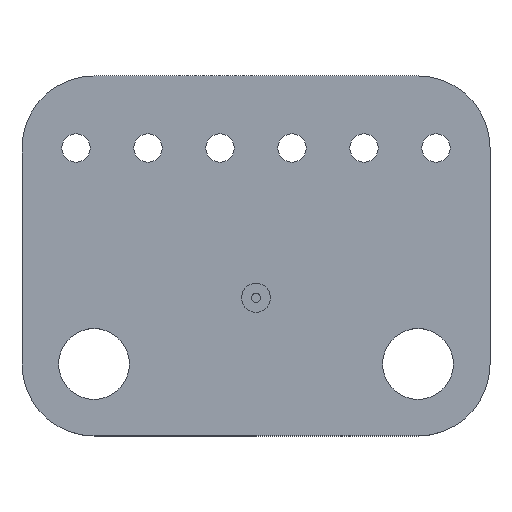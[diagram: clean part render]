
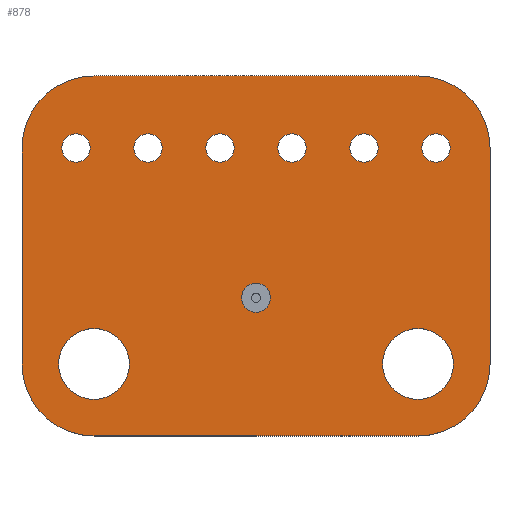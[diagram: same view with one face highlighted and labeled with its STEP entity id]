
A CAD part, top view. The second image highlights one B-rep face of the part: STEP entity #878.
In plain terms, the highlighted planar face has unit normal (0, 0, 1).
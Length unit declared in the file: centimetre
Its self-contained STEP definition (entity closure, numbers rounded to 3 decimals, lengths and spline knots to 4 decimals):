
#59=FACE_BOUND('',#177,.T.);
#60=FACE_BOUND('',#178,.T.);
#61=FACE_BOUND('',#179,.T.);
#62=FACE_BOUND('',#180,.T.);
#63=FACE_BOUND('',#181,.T.);
#64=FACE_BOUND('',#182,.T.);
#65=FACE_BOUND('',#183,.T.);
#66=FACE_BOUND('',#184,.T.);
#67=FACE_BOUND('',#185,.T.);
#78=PLANE('',#1024);
#125=FACE_OUTER_BOUND('',#176,.T.);
#176=EDGE_LOOP('',(#666,#667,#668,#669,#670,#671,#672,#673));
#177=EDGE_LOOP('',(#674));
#178=EDGE_LOOP('',(#675));
#179=EDGE_LOOP('',(#676));
#180=EDGE_LOOP('',(#677));
#181=EDGE_LOOP('',(#678));
#182=EDGE_LOOP('',(#679));
#183=EDGE_LOOP('',(#680));
#184=EDGE_LOOP('',(#681));
#185=EDGE_LOOP('',(#682));
#247=LINE('',#1421,#333);
#248=LINE('',#1425,#334);
#249=LINE('',#1429,#335);
#250=LINE('',#1432,#336);
#333=VECTOR('',#1161,0.1);
#334=VECTOR('',#1164,0.1);
#335=VECTOR('',#1167,0.1);
#336=VECTOR('',#1170,0.1);
#409=CIRCLE('',#996,0.05);
#411=CIRCLE('',#999,0.05);
#413=CIRCLE('',#1002,0.05);
#415=CIRCLE('',#1005,0.05);
#417=CIRCLE('',#1008,0.05);
#419=CIRCLE('',#1011,0.05);
#421=CIRCLE('',#1014,0.125);
#423=CIRCLE('',#1017,0.125);
#425=CIRCLE('',#1020,0.0513);
#427=CIRCLE('',#1023,0.254);
#428=CIRCLE('',#1025,0.254);
#429=CIRCLE('',#1026,0.254);
#430=CIRCLE('',#1027,0.254);
#437=VERTEX_POINT('',#1359);
#439=VERTEX_POINT('',#1365);
#441=VERTEX_POINT('',#1371);
#443=VERTEX_POINT('',#1377);
#445=VERTEX_POINT('',#1383);
#447=VERTEX_POINT('',#1389);
#449=VERTEX_POINT('',#1395);
#451=VERTEX_POINT('',#1401);
#453=VERTEX_POINT('',#1407);
#454=VERTEX_POINT('',#1411);
#457=VERTEX_POINT('',#1416);
#458=VERTEX_POINT('',#1420);
#459=VERTEX_POINT('',#1422);
#460=VERTEX_POINT('',#1424);
#461=VERTEX_POINT('',#1426);
#462=VERTEX_POINT('',#1428);
#463=VERTEX_POINT('',#1430);
#514=EDGE_CURVE('',#437,#437,#409,.T.);
#517=EDGE_CURVE('',#439,#439,#411,.T.);
#520=EDGE_CURVE('',#441,#441,#413,.T.);
#523=EDGE_CURVE('',#443,#443,#415,.T.);
#526=EDGE_CURVE('',#445,#445,#417,.T.);
#529=EDGE_CURVE('',#447,#447,#419,.T.);
#532=EDGE_CURVE('',#449,#449,#421,.T.);
#535=EDGE_CURVE('',#451,#451,#423,.T.);
#538=EDGE_CURVE('',#453,#453,#425,.T.);
#542=EDGE_CURVE('',#454,#457,#427,.T.);
#543=EDGE_CURVE('',#457,#458,#247,.T.);
#544=EDGE_CURVE('',#458,#459,#428,.T.);
#545=EDGE_CURVE('',#459,#460,#248,.T.);
#546=EDGE_CURVE('',#460,#461,#429,.T.);
#547=EDGE_CURVE('',#461,#462,#249,.T.);
#548=EDGE_CURVE('',#462,#463,#430,.T.);
#549=EDGE_CURVE('',#463,#454,#250,.T.);
#666=ORIENTED_EDGE('',*,*,#543,.T.);
#667=ORIENTED_EDGE('',*,*,#544,.T.);
#668=ORIENTED_EDGE('',*,*,#545,.T.);
#669=ORIENTED_EDGE('',*,*,#546,.T.);
#670=ORIENTED_EDGE('',*,*,#547,.T.);
#671=ORIENTED_EDGE('',*,*,#548,.T.);
#672=ORIENTED_EDGE('',*,*,#549,.T.);
#673=ORIENTED_EDGE('',*,*,#542,.T.);
#674=ORIENTED_EDGE('',*,*,#517,.T.);
#675=ORIENTED_EDGE('',*,*,#520,.T.);
#676=ORIENTED_EDGE('',*,*,#523,.T.);
#677=ORIENTED_EDGE('',*,*,#526,.T.);
#678=ORIENTED_EDGE('',*,*,#529,.T.);
#679=ORIENTED_EDGE('',*,*,#532,.T.);
#680=ORIENTED_EDGE('',*,*,#535,.T.);
#681=ORIENTED_EDGE('',*,*,#538,.T.);
#682=ORIENTED_EDGE('',*,*,#514,.T.);
#878=ADVANCED_FACE('',(#125,#59,#60,#61,#62,#63,#64,#65,#66,#67),#78,.T.);
#996=AXIS2_PLACEMENT_3D('',#1361,#1093,#1094);
#999=AXIS2_PLACEMENT_3D('',#1367,#1100,#1101);
#1002=AXIS2_PLACEMENT_3D('',#1373,#1107,#1108);
#1005=AXIS2_PLACEMENT_3D('',#1379,#1114,#1115);
#1008=AXIS2_PLACEMENT_3D('',#1385,#1121,#1122);
#1011=AXIS2_PLACEMENT_3D('',#1391,#1128,#1129);
#1014=AXIS2_PLACEMENT_3D('',#1397,#1135,#1136);
#1017=AXIS2_PLACEMENT_3D('',#1403,#1142,#1143);
#1020=AXIS2_PLACEMENT_3D('',#1409,#1149,#1150);
#1023=AXIS2_PLACEMENT_3D('',#1418,#1157,#1158);
#1024=AXIS2_PLACEMENT_3D('',#1419,#1159,#1160);
#1025=AXIS2_PLACEMENT_3D('',#1423,#1162,#1163);
#1026=AXIS2_PLACEMENT_3D('',#1427,#1165,#1166);
#1027=AXIS2_PLACEMENT_3D('',#1431,#1168,#1169);
#1093=DIRECTION('center_axis',(0.,0.,-1.));
#1094=DIRECTION('ref_axis',(1.,0.,0.));
#1100=DIRECTION('center_axis',(0.,0.,-1.));
#1101=DIRECTION('ref_axis',(1.,0.,0.));
#1107=DIRECTION('center_axis',(0.,0.,-1.));
#1108=DIRECTION('ref_axis',(1.,0.,0.));
#1114=DIRECTION('center_axis',(0.,0.,-1.));
#1115=DIRECTION('ref_axis',(1.,0.,0.));
#1121=DIRECTION('center_axis',(0.,0.,-1.));
#1122=DIRECTION('ref_axis',(1.,0.,0.));
#1128=DIRECTION('center_axis',(0.,0.,-1.));
#1129=DIRECTION('ref_axis',(1.,0.,0.));
#1135=DIRECTION('center_axis',(0.,0.,-1.));
#1136=DIRECTION('ref_axis',(1.,0.,0.));
#1142=DIRECTION('center_axis',(0.,0.,-1.));
#1143=DIRECTION('ref_axis',(1.,0.,0.));
#1149=DIRECTION('center_axis',(0.,0.,-1.));
#1150=DIRECTION('ref_axis',(1.,0.,0.));
#1157=DIRECTION('center_axis',(0.,0.,1.));
#1158=DIRECTION('ref_axis',(1.,0.,0.));
#1159=DIRECTION('center_axis',(0.,0.,1.));
#1160=DIRECTION('ref_axis',(1.,0.,0.));
#1161=DIRECTION('',(-1.,0.,0.));
#1162=DIRECTION('center_axis',(0.,0.,1.));
#1163=DIRECTION('ref_axis',(1.,0.,0.));
#1164=DIRECTION('',(0.,-1.,0.));
#1165=DIRECTION('center_axis',(0.,0.,1.));
#1166=DIRECTION('ref_axis',(1.,0.,0.));
#1167=DIRECTION('',(1.,0.,0.));
#1168=DIRECTION('center_axis',(0.,0.,1.));
#1169=DIRECTION('ref_axis',(1.,0.,0.));
#1170=DIRECTION('',(0.,1.,0.));
#1359=CARTESIAN_POINT('',(0.585,-0.9428,-0.405));
#1361=CARTESIAN_POINT('Origin',(0.635,-0.9428,-0.405));
#1365=CARTESIAN_POINT('',(0.331,-0.9428,-0.405));
#1367=CARTESIAN_POINT('Origin',(0.381,-0.9428,-0.405));
#1371=CARTESIAN_POINT('',(0.077,-0.9428,-0.405));
#1373=CARTESIAN_POINT('Origin',(0.127,-0.9428,-0.405));
#1377=CARTESIAN_POINT('',(-0.177,-0.9428,-0.405));
#1379=CARTESIAN_POINT('Origin',(-0.127,-0.9428,-0.405));
#1383=CARTESIAN_POINT('',(-0.431,-0.9428,-0.405));
#1385=CARTESIAN_POINT('Origin',(-0.381,-0.9428,-0.405));
#1389=CARTESIAN_POINT('',(-0.685,-0.9428,-0.405));
#1391=CARTESIAN_POINT('Origin',(-0.635,-0.9428,-0.405));
#1395=CARTESIAN_POINT('',(0.4465,-1.7048,-0.405));
#1397=CARTESIAN_POINT('Origin',(0.5715,-1.7048,-0.405));
#1401=CARTESIAN_POINT('',(-0.6965,-1.7048,-0.405));
#1403=CARTESIAN_POINT('Origin',(-0.5715,-1.7048,-0.405));
#1407=CARTESIAN_POINT('',(-0.0513,-1.471,-0.405));
#1409=CARTESIAN_POINT('Origin',(0.,-1.471,-0.405));
#1411=CARTESIAN_POINT('',(0.8255,-0.9428,-0.405));
#1416=CARTESIAN_POINT('',(0.5715,-0.6888,-0.405));
#1418=CARTESIAN_POINT('Origin',(0.5715,-0.9428,-0.405));
#1419=CARTESIAN_POINT('Origin',(0.,-1.3238,-0.405));
#1420=CARTESIAN_POINT('',(-0.5715,-0.6888,-0.405));
#1421=CARTESIAN_POINT('',(0.,-0.6888,-0.405));
#1422=CARTESIAN_POINT('',(-0.8255,-0.9428,-0.405));
#1423=CARTESIAN_POINT('Origin',(-0.5715,-0.9428,-0.405));
#1424=CARTESIAN_POINT('',(-0.8255,-1.7048,-0.405));
#1425=CARTESIAN_POINT('',(-0.8255,-1.3238,-0.405));
#1426=CARTESIAN_POINT('',(-0.5715,-1.9588,-0.405));
#1427=CARTESIAN_POINT('Origin',(-0.5715,-1.7048,-0.405));
#1428=CARTESIAN_POINT('',(0.5715,-1.9588,-0.405));
#1429=CARTESIAN_POINT('',(0.,-1.9588,-0.405));
#1430=CARTESIAN_POINT('',(0.8255,-1.7048,-0.405));
#1431=CARTESIAN_POINT('Origin',(0.5715,-1.7048,-0.405));
#1432=CARTESIAN_POINT('',(0.8255,-1.3238,-0.405));
